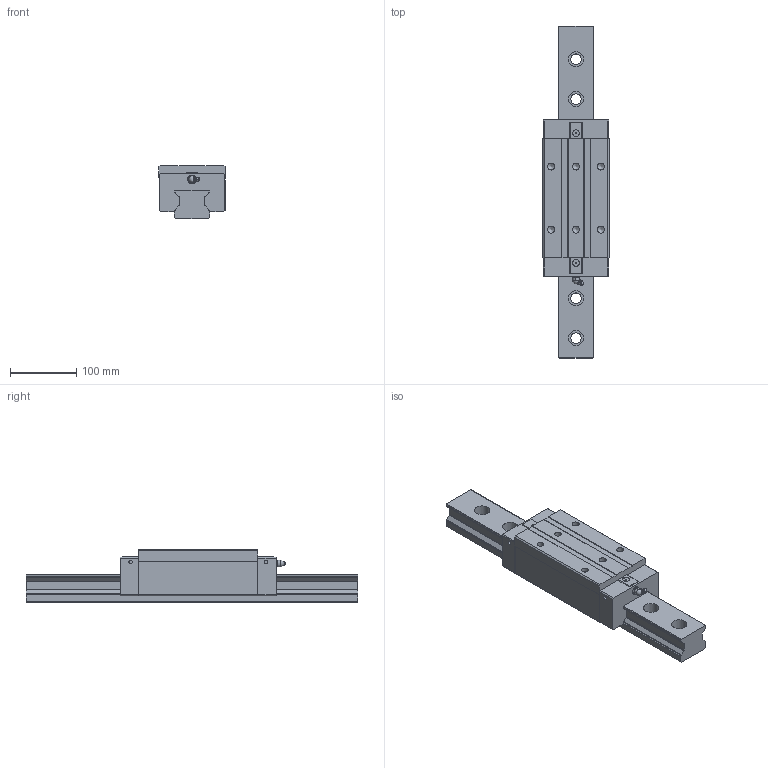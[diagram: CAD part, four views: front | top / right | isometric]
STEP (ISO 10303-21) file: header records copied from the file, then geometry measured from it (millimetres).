
FILE_DESCRIPTION(/* description */ (''),/* implementation_level */ '2;1');
FILE_NAME(/* name */ 'SMR55LS.stp',/* time_stamp */ '2010-03-04T11:34:21+08:00',/* author */ (''),/* organization */ (''),/* preprocessor_version */ 'ST-DEVELOPER v11',/* originating_system */ 'UGS - NX 5.0',/* authorisation */ '');
FILE_SCHEMA (('CONFIG_CONTROL_DESIGN'));
Length unit declared in the file: millimetre
Products named in the file (1): haywA1BBoj7y
Bounding box: 100 x 500 x 80 mm (x, y, z)
Volume: 2104454.7 mm3; surface area: 235715.9 mm2
Topology: 3 solids, 3 shells, 271 faces, 713 edges, 465 vertices
Faces by surface type: plane 191, cylinder 58, torus 10, cone 8, bspline 2, sphere 2
Full cylindrical faces by diameter (mm): 2 x2, 5.2 x4, 10.4 x8, 13 x2, 16 x8, 23 x8
Entity records: 8254 total; most frequent: CARTESIAN_POINT 1582, DIRECTION 1328, ORIENTED_EDGE 1322, EDGE_CURVE 661, LINE 486, VECTOR 486, VERTEX_POINT 459, AXIS2_PLACEMENT_3D 421
